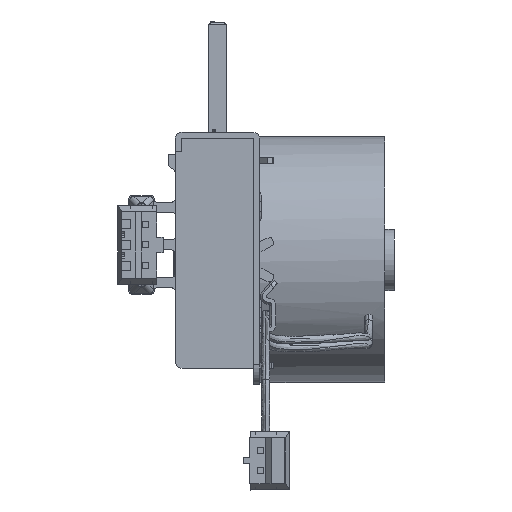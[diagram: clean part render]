
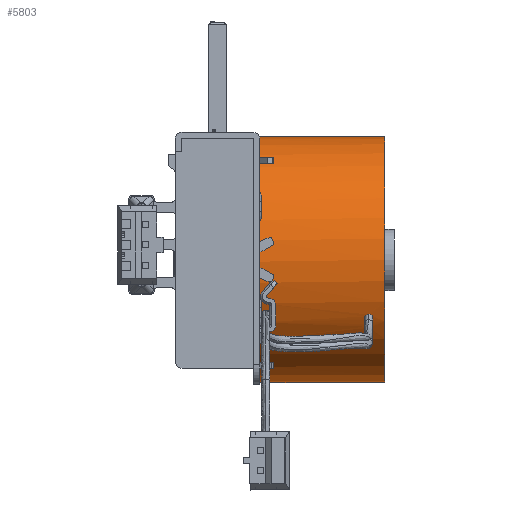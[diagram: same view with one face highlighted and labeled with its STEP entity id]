
A CAD part, left-side view. The second image highlights one B-rep face of the part: STEP entity #5803.
In plain terms, the highlighted cylindrical face has radius 12.2 mm (diameter 24.4 mm), a partial arc.
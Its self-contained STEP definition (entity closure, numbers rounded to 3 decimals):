
#46 = EDGE_CURVE ( 'NONE', #31349, #6487, #30861, .T. ) ;
#433 = DIRECTION ( 'NONE',  ( 0., 1., 0. ) ) ;
#598 = CARTESIAN_POINT ( 'NONE',  ( 79.9, -12.4, -12.65 ) ) ;
#623 = VECTOR ( 'NONE', #22394, 1000. ) ;
#741 = CARTESIAN_POINT ( 'NONE',  ( 69.038, -11.157, -18.206 ) ) ;
#897 = CARTESIAN_POINT ( 'NONE',  ( 68.953, -10.8, -18.035 ) ) ;
#1630 = CARTESIAN_POINT ( 'NONE',  ( 68.953, -10.8, -18.035 ) ) ;
#1918 = FACE_OUTER_BOUND ( 'NONE', #10156, .T. ) ;
#2026 = CARTESIAN_POINT ( 'NONE',  ( 79.488, 0.046, -0.45 ) ) ;
#2955 = CARTESIAN_POINT ( 'NONE',  ( 69.339, -10.8, -18.759 ) ) ;
#3029 = ORIENTED_EDGE ( 'NONE', *, *, #28256, .T. ) ;
#4364 = ORIENTED_EDGE ( 'NONE', *, *, #46, .T. ) ;
#4472 = CARTESIAN_POINT ( 'NONE',  ( 79.9, 0.046, -0.45 ) ) ;
#4915 = CARTESIAN_POINT ( 'NONE',  ( 69.738, -10.591, -19.402 ) ) ;
#5008 = LINE ( 'NONE', #24819, #623 ) ;
#5250 = CARTESIAN_POINT ( 'NONE',  ( 69.763, -10.8, -19.438 ) ) ;
#5803 = ADVANCED_FACE ( 'NONE', ( #1918, #11834, #21753 ), #17711, .T. ) ;
#5843 = EDGE_LOOP ( 'NONE', ( #4364, #21077 ) ) ;
#6252 = CARTESIAN_POINT ( 'NONE',  ( 68.953, -10.8, -18.035 ) ) ;
#6413 = CARTESIAN_POINT ( 'NONE',  ( 69.235, -10.443, -18.575 ) ) ;
#6416 = ORIENTED_EDGE ( 'NONE', *, *, #30360, .F. ) ;
#6487 = VERTEX_POINT ( 'NONE', #11040 ) ;
#6567 = CARTESIAN_POINT ( 'NONE',  ( 68.953, -10.694, -18.035 ) ) ;
#6800 = ORIENTED_EDGE ( 'NONE', *, *, #10244, .T. ) ;
#6816 = CARTESIAN_POINT ( 'NONE',  ( 69.436, -11.157, -18.923 ) ) ;
#7276 = ORIENTED_EDGE ( 'NONE', *, *, #26943, .T. ) ;
#7666 = CARTESIAN_POINT ( 'NONE',  ( 69.763, -10.694, -19.438 ) ) ;
#7897 = CIRCLE ( 'NONE', #19326, 12.2 ) ;
#7962 = AXIS2_PLACEMENT_3D ( 'NONE', #10793, #8361, #17822 ) ;
#8361 = DIRECTION ( 'NONE',  ( 0., 1., 0. ) ) ;
#8537 = CARTESIAN_POINT ( 'NONE',  ( 69.308, -10.591, -18.704 ) ) ;
#8688 = CARTESIAN_POINT ( 'NONE',  ( 69.329, -10.694, -18.741 ) ) ;
#8983 = CIRCLE ( 'NONE', #7962, 12.2 ) ;
#9091 = CARTESIAN_POINT ( 'NONE',  ( 69.601, -11.2, -19.19 ) ) ;
#9214 = ORIENTED_EDGE ( 'NONE', *, *, #12888, .F. ) ;
#9237 = CARTESIAN_POINT ( 'NONE',  ( 69.339, -10.906, -18.759 ) ) ;
#10156 = EDGE_LOOP ( 'NONE', ( #9214, #22326, #27298, #7276, #6416 ) ) ;
#10244 = EDGE_CURVE ( 'NONE', #11674, #26410, #10931, .T. ) ;
#10793 = CARTESIAN_POINT ( 'NONE',  ( 79.9, -12.4, -12.65 ) ) ;
#10931 = B_SPLINE_CURVE_WITH_KNOTS ( 'NONE', 3,
 ( #897, #18331, #13124, #741, #13292, #25113, #20905, #25261, #12792, #23165 ),
 .UNSPECIFIED., .F., .F.,
 ( 4, 2, 2, 2, 4 ),
 ( 0.001, 0.002, 0.002, 0.002, 0.003 ),
 .UNSPECIFIED. ) ;
#11040 = CARTESIAN_POINT ( 'NONE',  ( 69.339, -10.8, -18.759 ) ) ;
#11674 = VERTEX_POINT ( 'NONE', #1630 ) ;
#11834 = FACE_BOUND ( 'NONE', #5843, .T. ) ;
#11952 = CARTESIAN_POINT ( 'NONE',  ( 77.85, 0., -0.616 ) ) ;
#12018 = CARTESIAN_POINT ( 'NONE',  ( 69.739, -11.008, -19.403 ) ) ;
#12558 = CARTESIAN_POINT ( 'NONE',  ( 69.49, -10.4, -19.013 ) ) ;
#12792 = CARTESIAN_POINT ( 'NONE',  ( 69.329, -10.906, -18.741 ) ) ;
#12888 = EDGE_CURVE ( 'NONE', #21359, #30783, #24028, .T. ) ;
#13124 = CARTESIAN_POINT ( 'NONE',  ( 68.972, -11.009, -18.074 ) ) ;
#13292 = CARTESIAN_POINT ( 'NONE',  ( 69.086, -11.2, -18.299 ) ) ;
#13430 = CARTESIAN_POINT ( 'NONE',  ( 68.972, -10.592, -18.074 ) ) ;
#13586 = CARTESIAN_POINT ( 'NONE',  ( 69.329, -10.8, -18.741 ) ) ;
#13945 = CARTESIAN_POINT ( 'NONE',  ( 79.9, -12.4, -24.85 ) ) ;
#14163 = CARTESIAN_POINT ( 'NONE',  ( 69.763, -10.906, -19.438 ) ) ;
#14290 = DIRECTION ( 'NONE',  ( 0., 1., 0. ) ) ;
#14379 = VERTEX_POINT ( 'NONE', #28312 ) ;
#15696 = CARTESIAN_POINT ( 'NONE',  ( 79.9, -12.4, -0.45 ) ) ;
#15744 = DIRECTION ( 'NONE',  ( 0., 1., 0. ) ) ;
#16776 = CARTESIAN_POINT ( 'NONE',  ( 69.49, -11.2, -19.013 ) ) ;
#17191 = VERTEX_POINT ( 'NONE', #32091 ) ;
#17246 = B_SPLINE_CURVE_WITH_KNOTS ( 'NONE', 3,
 ( #4472, #2026, #28829, #26861, #11952, #26247 ),
 .UNSPECIFIED., .F., .F.,
 ( 4, 2, 4 ),
 ( 0.002, 0.004, 0.005 ),
 .UNSPECIFIED. ) ;
#17455 = VECTOR ( 'NONE', #14290, 1000. ) ;
#17479 = CARTESIAN_POINT ( 'NONE',  ( 69.361, -10.591, -18.796 ) ) ;
#17628 = CARTESIAN_POINT ( 'NONE',  ( 69.437, -10.442, -18.924 ) ) ;
#17711 = CYLINDRICAL_SURFACE ( 'NONE', #20490, 12.2 ) ;
#17822 = DIRECTION ( 'NONE',  ( 0., 0., 1. ) ) ;
#18331 = CARTESIAN_POINT ( 'NONE',  ( 68.953, -10.906, -18.035 ) ) ;
#18475 = CARTESIAN_POINT ( 'NONE',  ( 69.039, -10.442, -18.207 ) ) ;
#19326 = AXIS2_PLACEMENT_3D ( 'NONE', #22829, #15744, #28346 ) ;
#19828 = CARTESIAN_POINT ( 'NONE',  ( 69.329, -10.8, -18.741 ) ) ;
#20294 = CARTESIAN_POINT ( 'NONE',  ( 69.763, -10.8, -19.438 ) ) ;
#20389 = VERTEX_POINT ( 'NONE', #15696 ) ;
#20490 = AXIS2_PLACEMENT_3D ( 'NONE', #598, #433, #22858 ) ;
#20886 = CARTESIAN_POINT ( 'NONE',  ( 69.185, -10.4, -18.484 ) ) ;
#20905 = CARTESIAN_POINT ( 'NONE',  ( 69.235, -11.158, -18.574 ) ) ;
#21077 = ORIENTED_EDGE ( 'NONE', *, *, #24686, .T. ) ;
#21359 = VERTEX_POINT ( 'NONE', #13945 ) ;
#21753 = FACE_BOUND ( 'NONE', #22660, .T. ) ;
#22326 = ORIENTED_EDGE ( 'NONE', *, *, #23951, .T. ) ;
#22337 = B_SPLINE_CURVE_WITH_KNOTS ( 'NONE', 3,
 ( #24216, #9237, #31957, #6816, #16776, #9091, #26463, #12018, #14163, #20294 ),
 .UNSPECIFIED., .F., .F.,
 ( 4, 2, 2, 2, 4 ),
 ( 0.001, 0.002, 0.002, 0.002, 0.003 ),
 .UNSPECIFIED. ) ;
#22394 = DIRECTION ( 'NONE',  ( 0., 1., 0. ) ) ;
#22660 = EDGE_LOOP ( 'NONE', ( #3029, #6800 ) ) ;
#22829 = CARTESIAN_POINT ( 'NONE',  ( 79.9, 0., -12.65 ) ) ;
#22858 = DIRECTION ( 'NONE',  ( 0., 0., 1. ) ) ;
#23165 = CARTESIAN_POINT ( 'NONE',  ( 69.329, -10.8, -18.741 ) ) ;
#23951 = EDGE_CURVE ( 'NONE', #21359, #20389, #8983, .T. ) ;
#24028 = LINE ( 'NONE', #26736, #17455 ) ;
#24216 = CARTESIAN_POINT ( 'NONE',  ( 69.339, -10.8, -18.759 ) ) ;
#24686 = EDGE_CURVE ( 'NONE', #6487, #31349, #22337, .T. ) ;
#24819 = CARTESIAN_POINT ( 'NONE',  ( 79.9, -12.4, -0.45 ) ) ;
#24891 = CARTESIAN_POINT ( 'NONE',  ( 69.657, -10.443, -19.278 ) ) ;
#25113 = CARTESIAN_POINT ( 'NONE',  ( 69.184, -11.2, -18.483 ) ) ;
#25261 = CARTESIAN_POINT ( 'NONE',  ( 69.308, -11.009, -18.704 ) ) ;
#25433 = CARTESIAN_POINT ( 'NONE',  ( 69.763, -10.8, -19.438 ) ) ;
#26247 = CARTESIAN_POINT ( 'NONE',  ( 77.443, 0., -0.7 ) ) ;
#26410 = VERTEX_POINT ( 'NONE', #19828 ) ;
#26463 = CARTESIAN_POINT ( 'NONE',  ( 69.657, -11.158, -19.277 ) ) ;
#26661 = CARTESIAN_POINT ( 'NONE',  ( 79.9, 0., -24.85 ) ) ;
#26736 = CARTESIAN_POINT ( 'NONE',  ( 79.9, -12.4, -24.85 ) ) ;
#26861 = CARTESIAN_POINT ( 'NONE',  ( 78.258, 0.014, -0.554 ) ) ;
#26943 = EDGE_CURVE ( 'NONE', #14379, #17191, #17246, .T. ) ;
#27298 = ORIENTED_EDGE ( 'NONE', *, *, #29143, .T. ) ;
#27642 = CARTESIAN_POINT ( 'NONE',  ( 69.601, -10.4, -19.191 ) ) ;
#28256 = EDGE_CURVE ( 'NONE', #26410, #11674, #31864, .T. ) ;
#28312 = CARTESIAN_POINT ( 'NONE',  ( 79.9, 0.046, -0.45 ) ) ;
#28346 = DIRECTION ( 'NONE',  ( 0., 0., 1. ) ) ;
#28492 = CARTESIAN_POINT ( 'NONE',  ( 69.086, -10.4, -18.299 ) ) ;
#28829 = CARTESIAN_POINT ( 'NONE',  ( 79.077, 0.037, -0.471 ) ) ;
#29143 = EDGE_CURVE ( 'NONE', #20389, #14379, #5008, .T. ) ;
#30227 = CARTESIAN_POINT ( 'NONE',  ( 69.339, -10.694, -18.759 ) ) ;
#30360 = EDGE_CURVE ( 'NONE', #30783, #17191, #7897, .T. ) ;
#30783 = VERTEX_POINT ( 'NONE', #26661 ) ;
#30861 = B_SPLINE_CURVE_WITH_KNOTS ( 'NONE', 3,
 ( #5250, #7666, #4915, #24891, #27642, #12558, #17628, #17479, #30227, #2955 ),
 .UNSPECIFIED., .F., .F.,
 ( 4, 2, 2, 2, 4 ),
 ( 0., 0., 0.001, 0.001, 0.001 ),
 .UNSPECIFIED. ) ;
#31349 = VERTEX_POINT ( 'NONE', #25433 ) ;
#31864 = B_SPLINE_CURVE_WITH_KNOTS ( 'NONE', 3,
 ( #13586, #8688, #8537, #6413, #20886, #28492, #18475, #13430, #6567, #6252 ),
 .UNSPECIFIED., .F., .F.,
 ( 4, 2, 2, 2, 4 ),
 ( 0., 0., 0.001, 0.001, 0.001 ),
 .UNSPECIFIED. ) ;
#31957 = CARTESIAN_POINT ( 'NONE',  ( 69.361, -11.009, -18.796 ) ) ;
#32091 = CARTESIAN_POINT ( 'NONE',  ( 77.443, 0., -0.7 ) ) ;
